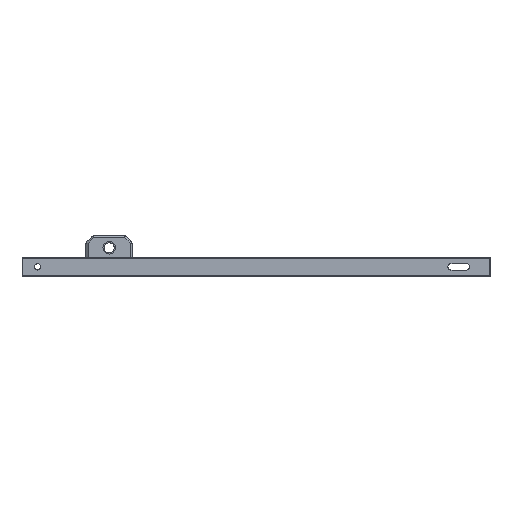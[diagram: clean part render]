
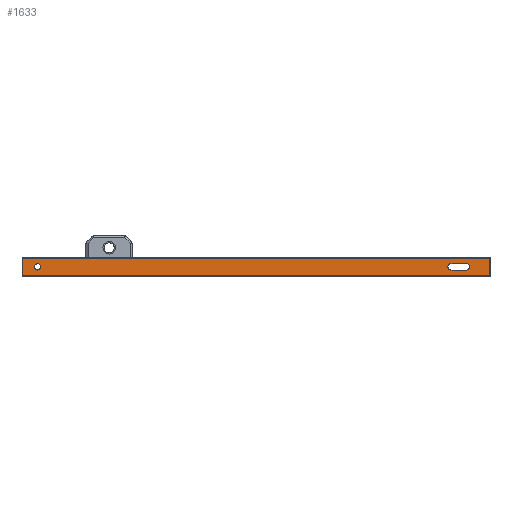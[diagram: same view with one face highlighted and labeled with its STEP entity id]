
A CAD part, front view. The second image highlights one B-rep face of the part: STEP entity #1633.
In plain terms, the highlighted planar face has unit normal (0, -1, 0) as drawn and (0, 1, 0) by its records, which use the part's own axes.
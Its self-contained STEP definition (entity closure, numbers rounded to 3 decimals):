
#71=FACE_BOUND('',#289,.T.);
#72=FACE_BOUND('',#290,.T.);
#112=PLANE('',#1773);
#184=FACE_OUTER_BOUND('',#288,.T.);
#288=EDGE_LOOP('',(#1253,#1254,#1255,#1256));
#289=EDGE_LOOP('',(#1257,#1258,#1259,#1260));
#290=EDGE_LOOP('',(#1261));
#394=LINE('',#2410,#559);
#402=LINE('',#2437,#567);
#406=LINE('',#2457,#571);
#422=LINE('',#2489,#587);
#428=LINE('',#2500,#593);
#429=LINE('',#2502,#594);
#559=VECTOR('',#1930,10.);
#567=VECTOR('',#1960,10.);
#571=VECTOR('',#1984,10.);
#587=VECTOR('',#2010,10.);
#593=VECTOR('',#2020,10.);
#594=VECTOR('',#2023,10.);
#725=CIRCLE('',#1750,4.);
#729=CIRCLE('',#1758,4.);
#733=CIRCLE('',#1764,4.);
#783=VERTEX_POINT('',#2407);
#784=VERTEX_POINT('',#2409);
#788=VERTEX_POINT('',#2421);
#792=VERTEX_POINT('',#2436);
#796=VERTEX_POINT('',#2451);
#797=VERTEX_POINT('',#2455);
#798=VERTEX_POINT('',#2456);
#809=VERTEX_POINT('',#2488);
#812=VERTEX_POINT('',#2498);
#933=EDGE_CURVE('',#784,#783,#394,.T.);
#939=EDGE_CURVE('',#788,#784,#725,.T.);
#947=EDGE_CURVE('',#792,#788,#402,.T.);
#950=EDGE_CURVE('',#783,#792,#729,.T.);
#956=EDGE_CURVE('',#796,#796,#733,.T.);
#957=EDGE_CURVE('',#797,#798,#406,.T.);
#973=EDGE_CURVE('',#809,#798,#422,.T.);
#979=EDGE_CURVE('',#797,#812,#428,.T.);
#980=EDGE_CURVE('',#809,#812,#429,.T.);
#1253=ORIENTED_EDGE('',*,*,#979,.T.);
#1254=ORIENTED_EDGE('',*,*,#980,.F.);
#1255=ORIENTED_EDGE('',*,*,#973,.T.);
#1256=ORIENTED_EDGE('',*,*,#957,.F.);
#1257=ORIENTED_EDGE('',*,*,#947,.T.);
#1258=ORIENTED_EDGE('',*,*,#939,.T.);
#1259=ORIENTED_EDGE('',*,*,#933,.T.);
#1260=ORIENTED_EDGE('',*,*,#950,.T.);
#1261=ORIENTED_EDGE('',*,*,#956,.T.);
#1633=ADVANCED_FACE('',(#184,#71,#72),#112,.T.);
#1750=AXIS2_PLACEMENT_3D('',#2422,#1943,#1944);
#1758=AXIS2_PLACEMENT_3D('',#2441,#1966,#1967);
#1764=AXIS2_PLACEMENT_3D('',#2453,#1980,#1981);
#1773=AXIS2_PLACEMENT_3D('',#2501,#2021,#2022);
#1930=DIRECTION('',(1.,0.,0.));
#1943=DIRECTION('center_axis',(0.,-1.,0.));
#1944=DIRECTION('ref_axis',(1.,0.,0.));
#1960=DIRECTION('',(-1.,0.,0.));
#1966=DIRECTION('center_axis',(0.,-1.,0.));
#1967=DIRECTION('ref_axis',(1.,0.,0.));
#1980=DIRECTION('center_axis',(0.,-1.,0.));
#1981=DIRECTION('ref_axis',(1.,0.,0.));
#1984=DIRECTION('',(0.,0.,-1.));
#2010=DIRECTION('',(-1.,0.,0.));
#2020=DIRECTION('',(1.,0.,0.));
#2021=DIRECTION('center_axis',(0.,1.,0.));
#2022=DIRECTION('ref_axis',(0.,0.,1.));
#2023=DIRECTION('',(0.,0.,1.));
#2407=CARTESIAN_POINT('',(280.,12.5,-4.));
#2409=CARTESIAN_POINT('',(260.,12.5,-4.));
#2410=CARTESIAN_POINT('',(140.,12.5,-4.));
#2421=CARTESIAN_POINT('',(260.,12.5,4.));
#2422=CARTESIAN_POINT('Origin',(260.,12.5,0.));
#2436=CARTESIAN_POINT('',(280.,12.5,4.));
#2437=CARTESIAN_POINT('',(130.,12.5,4.));
#2441=CARTESIAN_POINT('Origin',(280.,12.5,0.));
#2451=CARTESIAN_POINT('',(-274.,12.5,0.));
#2453=CARTESIAN_POINT('Origin',(-270.,12.5,0.));
#2455=CARTESIAN_POINT('',(-290.,12.5,12.5));
#2456=CARTESIAN_POINT('',(-290.,12.5,-12.5));
#2457=CARTESIAN_POINT('',(-290.,12.5,-12.5));
#2488=CARTESIAN_POINT('',(310.,12.5,-12.5));
#2489=CARTESIAN_POINT('',(0.,12.5,-12.5));
#2498=CARTESIAN_POINT('',(310.,12.5,12.5));
#2500=CARTESIAN_POINT('',(0.,12.5,12.5));
#2501=CARTESIAN_POINT('Origin',(0.,12.5,-12.5));
#2502=CARTESIAN_POINT('',(310.,12.5,-12.5));
